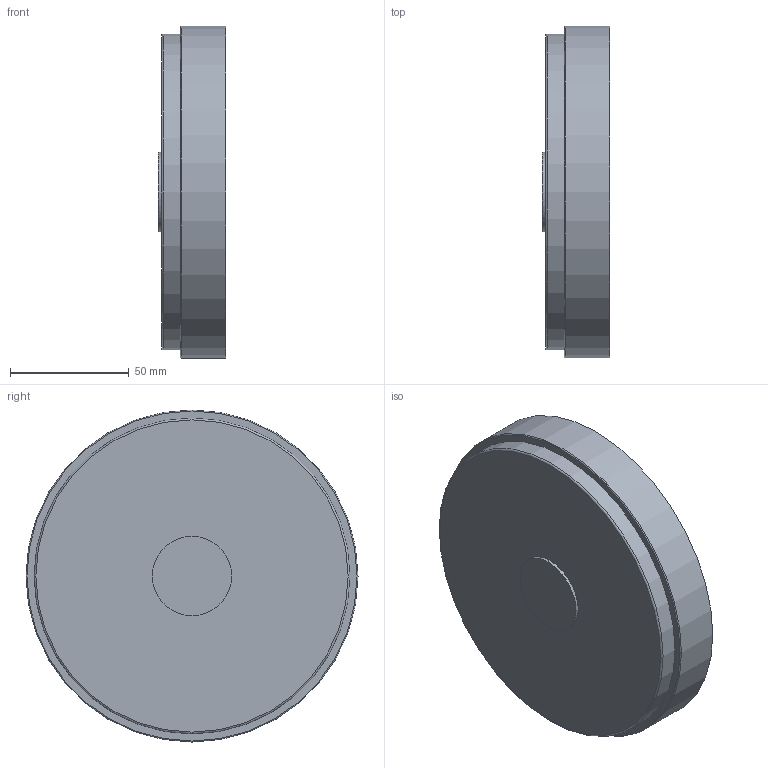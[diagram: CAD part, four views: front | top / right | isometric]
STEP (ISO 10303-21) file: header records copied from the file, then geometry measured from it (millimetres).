
FILE_DESCRIPTION(/* description */ ('VIC STRENGTHIN CAP No E496 w/Tap 1/2 inch BSPT (Concentric)','CAx-IF Rec.Pracs.---Representation and Presentation of Product Manufacturing Information (PMI)---4.0---2014-10-13'),/* implementation_level */ '2;1');
FILE_NAME(/* name */ 'C:\Users\Vjadhav\AppData\Roaming\Autodesk\ApplicationPlugins\Back Up\Victaulic_SS-StrengThin 100_Cap With Tap_No E496 (ST1)\Victaulic_SS-StrengThin 100_Cap With Tap_No E496 (ST1)_05.0 (139.7)x01.0 (125x25).stp',/* time_stamp */ '2020-07-07T18:47:03+05:00',/* author */ ('jheald'),/* organization */ ('Victaulic'),/* preprocessor_version */ 'ST-DEVELOPER v17.2',/* originating_system */ 'Autodesk Inventor 2019',/* authorisation */ '');
FILE_SCHEMA (('AP242_MANAGED_MODEL_BASED_3D_ENGINEERING_MIM_LF { 1 0 10303 442 1 1 4 }'));
Length unit declared in the file: inch
Products named in the file (1): E496-05.0 (139.7)x01.0
Bounding box: 28.19 x 139.7 x 139.7 mm (x, y, z)
Volume: 282906.7 mm3; surface area: 46028.4 mm2
Topology: 1 solids, 1 shells, 11 faces, 26 edges, 20 vertices
Faces by surface type: plane 5, cylinder 4, torus 2
Full cylindrical faces by diameter (mm): 33.401 x1, 125.476 x1, 132.893 x1, 139.7 x1
Entity records: 489 total; most frequent: DIRECTION 98, CARTESIAN_POINT 75, ORIENTED_EDGE 52, AXIS2_PLACEMENT_3D 47, EDGE_CURVE 26, CIRCLE 22, VERTEX_POINT 20, EDGE_LOOP 14
